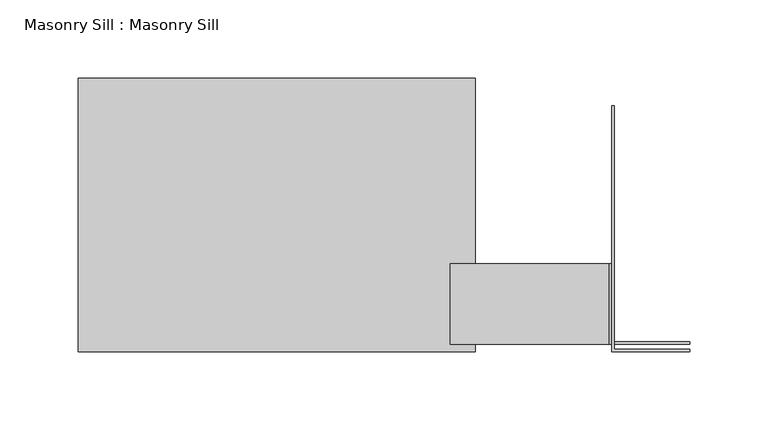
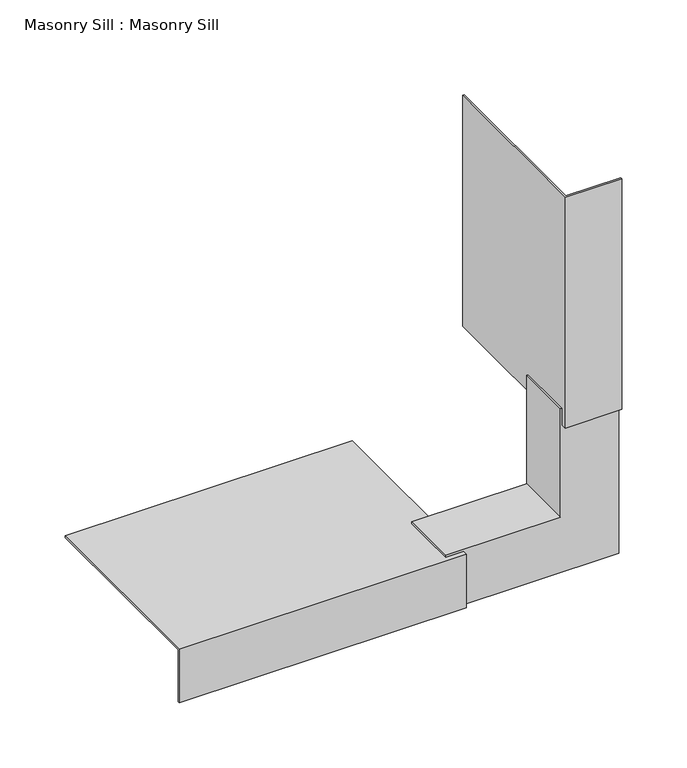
"""IFC4 building model written with IfcOpenShell, lengths in millimetres: proxy geometry, Masonry Sill : Masonry Sill."""

from ifc_helpers import new_model, si_unit, frame, origin, place, context, project, spatial, polyline, outline, extrude, faceted_brep, source, transform, mapped, element, save


def masonry_sill_masonry_sill_b8c52efa(model_context):
    return source(origin(), model_context, "Body", "SolidModel", [
        extrude(outline(polyline([(26855.8851773, 626.0441297), (26855.8851773, 783.2066297), (26857.4726773, 783.2066297), (26857.4726773, 627.6316297), (26905.8899931, 627.6316297), (26905.8899931, 626.0441297), (26855.8851773, 626.0441297)])), frame((0.0, 0.0, 546.1), z_axis=(0.0, 0.0, 1.0), x_axis=(1.0, 0.0, 0.0)), (0.0, 0.0, 1.0), 215.9),
        faceted_brep([(26752.6976773, 630.8066297, 408.7826842), (26752.6976773, 630.8066297, 460.375), (26752.6976773, 682.3989454, 460.375), (26752.6976773, 682.3989454, 458.7875), (26752.6976773, 632.3941297, 458.7875), (26752.6976773, 632.3941297, 408.7826842), (26905.8899931, 632.3941297, 408.7826842), (26905.8899931, 630.8066297, 408.7826842), (26855.8851773, 632.3941297, 458.7875), (26855.8851773, 632.3941297, 561.975), (26905.8899931, 632.3941297, 561.975), (26855.8851773, 682.3989454, 458.7875), (26854.2976773, 682.3989454, 460.375), (26854.2976773, 682.3989454, 561.975), (26855.8851773, 682.3989454, 561.975), (26854.2976773, 630.8066297, 460.375), (26905.8899931, 630.8066297, 561.975), (26854.2976773, 630.8066297, 561.975)], [[[0, 1, 2, 3, 4, 5]], [[0, 5, 6, 7]], [[5, 4, 8, 9, 10, 6]], [[4, 3, 11, 8]], [[3, 2, 12, 13, 14, 11]], [[2, 1, 15, 12]], [[1, 0, 7, 16, 17, 15]], [[16, 10, 9, 14, 13, 17]], [[7, 6, 10, 16]], [[8, 11, 14, 9]], [[12, 15, 17, 13]]]),
        extrude(outline(polyline([(626.0441297, 458.7875), (800.9450925, 458.7875), (800.9450925, 457.2), (627.6316297, 457.2), (627.6316297, 408.7826842), (626.0441297, 408.7826842), (626.0441297, 458.7875)])), frame((26514.5726773, 0.0, 0.0), z_axis=(1.0, 0.0, 0.0), x_axis=(0.0, 1.0, 0.0)), (0.0, 0.0, 1.0), 254.0),
    ])


if __name__ == "__main__":
    model = new_model("IFC4")
    model_context = context("Model", 3, world=origin())
    ifc_project = project(units=[si_unit("LENGTHUNIT", "METRE", prefix="MILLI")], contexts=[model_context])
    site = spatial("IfcSite", under=ifc_project)
    building = spatial("IfcBuilding", under=site)
    placement = place(None, origin())
    masonry_sill_masonry_sill_shape = masonry_sill_masonry_sill_b8c52efa(model_context)
    element("IfcBuildingElementProxy", 1, Name="Masonry Sill : Masonry Sill", ObjectType="Masonry Sill : Masonry Sill", at=placement, inside=building, context=model_context, shape_type="MappedRepresentation", body=[
        mapped(masonry_sill_masonry_sill_shape, transform((0.0, 0.0, 0.0), x_axis=(1.0, 0.0, 0.0), y_axis=(0.0, 1.0, 0.0), z_axis=(0.0, 0.0, 1.0))),
    ])
    save(model, "model.ifc")
